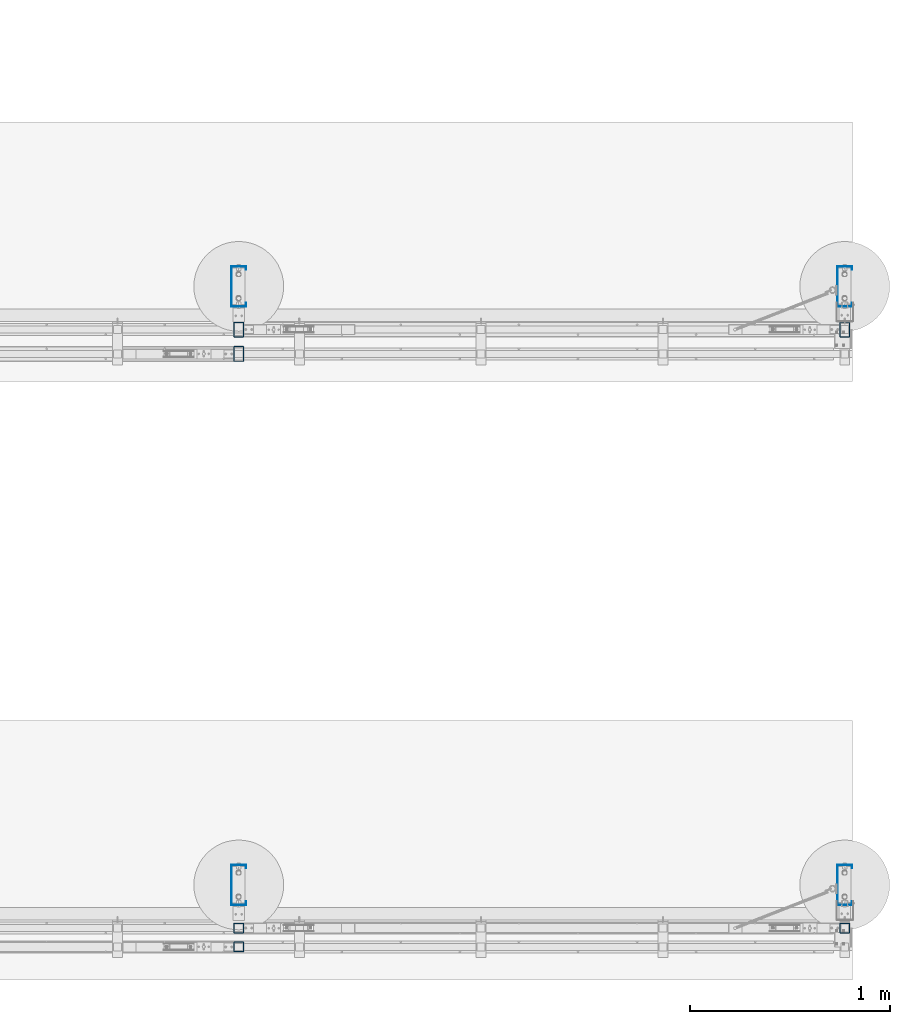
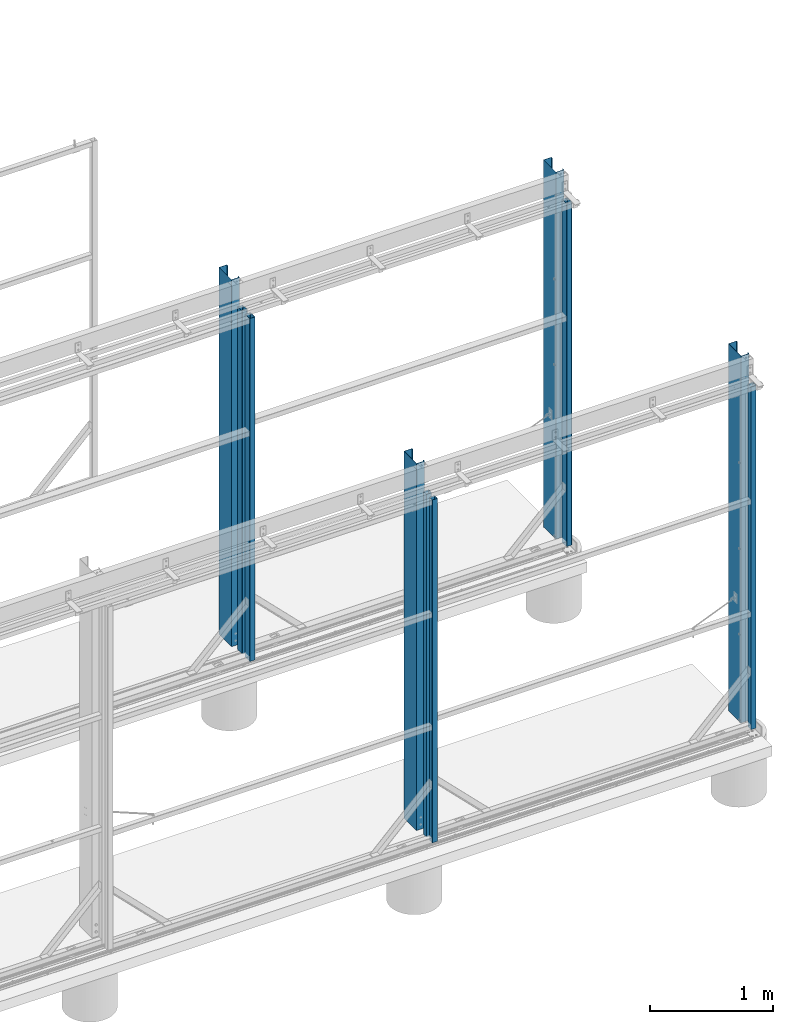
# One storey, part 2 of 91: 10 columns, 10 elements without a shape of their own.
"""IFC2X3 building model written with IfcOpenShell, lengths in millimetres."""

from ifc_helpers import new_model, si_unit, frame, origin_with_axes, origin_2d_with_axis, place, context, subcontext, project, spatial, hollow_rectangle, c_section, extrude, material, type_object, element, aggregate, save


model = new_model("IFC2X3")

# Units and contexts
model_context = context("Model", 3, precision=1e-05, world=origin_with_axes())
body_context = subcontext(model_context, "Body", "Model", "MODEL_VIEW")
ifc_project = project(units=[si_unit("LENGTHUNIT", "METRE", prefix="MILLI"), si_unit("AREAUNIT", "SQUARE_METRE"), si_unit("VOLUMEUNIT", "CUBIC_METRE"), si_unit("MASSUNIT", "GRAM", prefix="KILO"), si_unit("TIMEUNIT", "SECOND"), si_unit("PLANEANGLEUNIT", "RADIAN"), si_unit("SOLIDANGLEUNIT", "STERADIAN"), si_unit("THERMODYNAMICTEMPERATUREUNIT", "DEGREE_CELSIUS"), si_unit("LUMINOUSINTENSITYUNIT", "LUMEN")], contexts=[model_context])

# Site, building, storey
site_placement = place(None, origin_with_axes())
site = spatial("IfcSite", under=ifc_project, at=site_placement, Name="Undefined", CompositionType="ELEMENT")
building_placement = place(site_placement, origin_with_axes())
building = spatial("IfcBuilding", under=site, at=building_placement, Name="Undefined", CompositionType="ELEMENT")
storey_placement = place(building_placement, origin_with_axes())
storey = spatial("IfcBuildingStorey", under=building, at=storey_placement, Name="Undefined", CompositionType="ELEMENT", Elevation=0.0)

# Assembly, column
assembly_1_placement = place(storey_placement, origin_with_axes())
assembly_1 = element("IfcElementAssembly", 1, at=assembly_1_placement, inside=storey, Name="SLIDING DOOR", AssemblyPlace="NOTDEFINED", PredefinedType="RIGID_FRAME")
ifc_material_1 = material(Name="STEEL/300")
column_type_1 = type_object("IfcColumnType", Name="RHS:75x50x2.0", PredefinedType="NOTDEFINED")
column_1_placement = place(assembly_1_placement, frame((-107683.34, 87712.15, -17.0), z_axis=(0.0, 0.0, 1.0), x_axis=(0.0, 1.0, 0.0)))
column_1 = element("IfcColumn", 2, at=column_1_placement, type_object=column_type_1, material=ifc_material_1, Name="SLIDING DOOR", ObjectType="RHS:75x50x2.0", context=body_context, shape_type="SweptSolid", body=[
    extrude(hollow_rectangle(XDim=50.0, YDim=75.0, WallThickness=2.0, InnerFilletRadius=2.0, OuterFilletRadius=4.0, at=origin_2d_with_axis()), frame((0.0, 0.0, 3393.0), z_axis=(0.0, 0.0, -1.0), x_axis=(0.0, 1.0, 0.0)), (0.0, 0.0, 1.0), 3393.0),
])
aggregate(assembly_1, [column_1])

assembly_2_placement = place(storey_placement, origin_with_axes())
assembly_2 = element("IfcElementAssembly", 3, at=assembly_2_placement, inside=storey, Name="SLIDING DOOR", AssemblyPlace="NOTDEFINED", PredefinedType="RIGID_FRAME")
column_2_placement = place(assembly_2_placement, frame((-110720.84, 87590.15, -17.0), z_axis=(0.0, 0.0, 1.0), x_axis=(0.0, 1.0, 0.0)))
column_2 = element("IfcColumn", 4, at=column_2_placement, type_object=column_type_1, material=ifc_material_1, Name="SLIDING DOOR", ObjectType="RHS:75x50x2.0", context=body_context, shape_type="SweptSolid", body=[
    extrude(hollow_rectangle(XDim=50.0, YDim=75.0, WallThickness=2.0, InnerFilletRadius=2.0, OuterFilletRadius=4.0, at=origin_2d_with_axis()), frame((0.0, 0.0, 3393.0), z_axis=(0.0, 0.0, -1.0), x_axis=(0.0, 1.0, 0.0)), (0.0, 0.0, 1.0), 3393.0),
])
aggregate(assembly_2, [column_2])

assembly_3_placement = place(storey_placement, origin_with_axes())
assembly_3 = element("IfcElementAssembly", 5, at=assembly_3_placement, inside=storey, Name="SLIDING DOOR", AssemblyPlace="NOTDEFINED", PredefinedType="RIGID_FRAME")
column_3_placement = place(assembly_3_placement, frame((-110720.84, 87712.15, -17.0), z_axis=(0.0, 0.0, 1.0), x_axis=(0.0, 1.0, 0.0)))
column_3 = element("IfcColumn", 6, at=column_3_placement, type_object=column_type_1, material=ifc_material_1, Name="SLIDING DOOR", ObjectType="RHS:75x50x2.0", context=body_context, shape_type="SweptSolid", body=[
    extrude(hollow_rectangle(XDim=50.0, YDim=75.0, WallThickness=2.0, InnerFilletRadius=2.0, OuterFilletRadius=4.0, at=origin_2d_with_axis()), frame((0.0, 0.0, 3393.0), z_axis=(0.0, 0.0, -1.0), x_axis=(0.0, 1.0, 0.0)), (0.0, 0.0, 1.0), 3393.0),
])
aggregate(assembly_3, [column_3])

assembly_4_placement = place(storey_placement, origin_with_axes())
assembly_4 = element("IfcElementAssembly", 7, at=assembly_4_placement, inside=storey, Name="COLUMN", AssemblyPlace="NOTDEFINED", PredefinedType="RIGID_FRAME")
ifc_material_2 = material(Name="STEEL/G450")
column_type_2 = type_object("IfcColumnType", Name="C:200-19", PredefinedType="NOTDEFINED")
column_4_placement = place(assembly_4_placement, frame((-110720.84, 87928.65, -32.0), z_axis=(0.0, 0.0, 1.0), x_axis=(0.0, -1.0, 0.0)))
column_4 = element("IfcColumn", 8, at=column_4_placement, type_object=column_type_2, material=ifc_material_2, Name="COLUMN", ObjectType="C:200-19", context=body_context, shape_type="SweptSolid", body=[
    extrude(c_section(Depth=203.0, Width=76.0, WallThickness=1.899999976, Girth=19.0, at=origin_2d_with_axis()), frame((0.0, 0.0, 3632.0), z_axis=(0.0, 0.0, -1.0), x_axis=(0.0, 1.0, 0.0)), (0.0, 0.0, 1.0), 3632.0),
])
aggregate(assembly_4, [column_4])

assembly_5_placement = place(storey_placement, origin_with_axes())
assembly_5 = element("IfcElementAssembly", 9, at=assembly_5_placement, inside=storey, Name="COLUMN", AssemblyPlace="NOTDEFINED", PredefinedType="RIGID_FRAME")
column_5_placement = place(assembly_5_placement, frame((-107683.34, 87928.65, -32.0), z_axis=(0.0, 0.0, 1.0), x_axis=(0.0, -1.0, 0.0)))
column_5 = element("IfcColumn", 10, at=column_5_placement, type_object=column_type_2, material=ifc_material_2, Name="COLUMN", ObjectType="C:200-19", context=body_context, shape_type="SweptSolid", body=[
    extrude(c_section(Depth=203.0, Width=76.0, WallThickness=1.899999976, Girth=19.0, at=origin_2d_with_axis()), frame((0.0, 0.0, 3632.0), z_axis=(0.0, 0.0, -1.0), x_axis=(0.0, 1.0, 0.0)), (0.0, 0.0, 1.0), 3632.0),
])
aggregate(assembly_5, [column_5])

assembly_6_placement = place(storey_placement, origin_with_axes())
assembly_6 = element("IfcElementAssembly", 11, at=assembly_6_placement, inside=storey, Name="COLUMN", AssemblyPlace="NOTDEFINED", PredefinedType="RIGID_FRAME")
column_6_placement = place(assembly_6_placement, frame((-110720.84, 84928.65, -32.0), z_axis=(0.0, 0.0, 1.0), x_axis=(0.0, -1.0, 0.0)))
column_6 = element("IfcColumn", 12, at=column_6_placement, type_object=column_type_2, material=ifc_material_2, Name="COLUMN", ObjectType="C:200-19", context=body_context, shape_type="SweptSolid", body=[
    extrude(c_section(Depth=203.0, Width=76.0, WallThickness=1.899999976, Girth=19.0, at=origin_2d_with_axis()), frame((0.0, 0.0, 3632.0), z_axis=(0.0, 0.0, -1.0), x_axis=(0.0, 1.0, 0.0)), (0.0, 0.0, 1.0), 3632.0),
])
aggregate(assembly_6, [column_6])

assembly_7_placement = place(storey_placement, origin_with_axes())
assembly_7 = element("IfcElementAssembly", 13, at=assembly_7_placement, inside=storey, Name="COLUMN", AssemblyPlace="NOTDEFINED", PredefinedType="RIGID_FRAME")
column_7_placement = place(assembly_7_placement, frame((-107683.34, 84928.65, -32.0), z_axis=(0.0, 0.0, 1.0), x_axis=(0.0, -1.0, 0.0)))
column_7 = element("IfcColumn", 14, at=column_7_placement, type_object=column_type_2, material=ifc_material_2, Name="COLUMN", ObjectType="C:200-19", context=body_context, shape_type="SweptSolid", body=[
    extrude(c_section(Depth=203.0, Width=76.0, WallThickness=1.899999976, Girth=19.0, at=origin_2d_with_axis()), frame((0.0, 0.0, 3632.0), z_axis=(0.0, 0.0, -1.0), x_axis=(0.0, 1.0, 0.0)), (0.0, 0.0, 1.0), 3632.0),
])
aggregate(assembly_7, [column_7])

assembly_8_placement = place(storey_placement, origin_with_axes())
assembly_8 = element("IfcElementAssembly", 15, at=assembly_8_placement, inside=storey, Name="SLIDING DOOR", AssemblyPlace="NOTDEFINED", PredefinedType="RIGID_FRAME")
column_type_3 = type_object("IfcColumnType", Name="SHS:50x50x2.0", PredefinedType="NOTDEFINED")
column_8_placement = place(assembly_8_placement, frame((-107683.34, 84712.15, -17.0), z_axis=(0.0, 0.0, 1.0), x_axis=(0.0, 1.0, 0.0)))
column_8 = element("IfcColumn", 16, at=column_8_placement, type_object=column_type_3, material=ifc_material_1, Name="SLIDING DOOR", ObjectType="SHS:50x50x2.0", context=body_context, shape_type="SweptSolid", body=[
    extrude(hollow_rectangle(XDim=50.0, YDim=50.0, WallThickness=2.0, InnerFilletRadius=2.0, OuterFilletRadius=4.0, at=origin_2d_with_axis()), frame((0.0, 0.0, 3393.0), z_axis=(0.0, 0.0, -1.0), x_axis=(0.0, 1.0, 0.0)), (0.0, 0.0, 1.0), 3393.0),
])
aggregate(assembly_8, [column_8])

assembly_9_placement = place(storey_placement, origin_with_axes())
assembly_9 = element("IfcElementAssembly", 17, at=assembly_9_placement, inside=storey, Name="SLIDING DOOR", AssemblyPlace="NOTDEFINED", PredefinedType="RIGID_FRAME")
column_9_placement = place(assembly_9_placement, frame((-110720.84, 84712.15, -17.0), z_axis=(0.0, 0.0, 1.0), x_axis=(0.0, 1.0, 0.0)))
column_9 = element("IfcColumn", 18, at=column_9_placement, type_object=column_type_3, material=ifc_material_1, Name="SLIDING DOOR", ObjectType="SHS:50x50x2.0", context=body_context, shape_type="SweptSolid", body=[
    extrude(hollow_rectangle(XDim=50.0, YDim=50.0, WallThickness=2.0, InnerFilletRadius=2.0, OuterFilletRadius=4.0, at=origin_2d_with_axis()), frame((0.0, 0.0, 3393.0), z_axis=(0.0, 0.0, -1.0), x_axis=(0.0, 1.0, 0.0)), (0.0, 0.0, 1.0), 3393.0),
])
aggregate(assembly_9, [column_9])

assembly_10_placement = place(storey_placement, origin_with_axes())
assembly_10 = element("IfcElementAssembly", 19, at=assembly_10_placement, inside=storey, Name="SLIDING DOOR", AssemblyPlace="NOTDEFINED", PredefinedType="RIGID_FRAME")
column_10_placement = place(assembly_10_placement, frame((-110720.84, 84618.15, -17.0), z_axis=(0.0, 0.0, 1.0), x_axis=(0.0, 1.0, 0.0)))
column_10 = element("IfcColumn", 20, at=column_10_placement, type_object=column_type_3, material=ifc_material_1, Name="SLIDING DOOR", ObjectType="SHS:50x50x2.0", context=body_context, shape_type="SweptSolid", body=[
    extrude(hollow_rectangle(XDim=50.0, YDim=50.0, WallThickness=2.0, InnerFilletRadius=2.0, OuterFilletRadius=4.0, at=origin_2d_with_axis()), frame((0.0, 0.0, 3393.0), z_axis=(0.0, 0.0, -1.0), x_axis=(0.0, 1.0, 0.0)), (0.0, 0.0, 1.0), 3393.0),
])
aggregate(assembly_10, [column_10])

save(model, "model.ifc")
